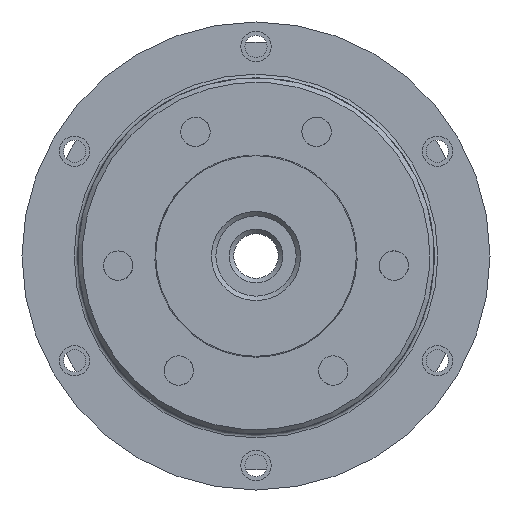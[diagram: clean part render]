
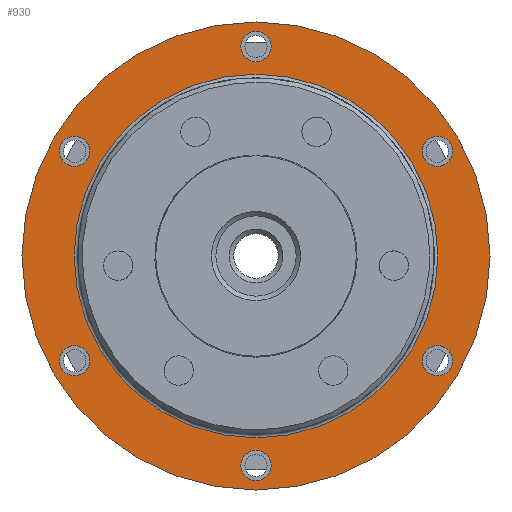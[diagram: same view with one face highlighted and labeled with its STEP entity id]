
A CAD part, left-side view. The second image highlights one B-rep face of the part: STEP entity #930.
In plain terms, the highlighted planar face has unit normal (-1, 0, 0).
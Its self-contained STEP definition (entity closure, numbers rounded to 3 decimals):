
#930 = ADVANCED_FACE( '', ( #2424, #2425, #2426, #2427, #2428, #2429, #2430, #2431 ), #2432, .F. );
#2424 = FACE_OUTER_BOUND( '', #4663, .T. );
#2425 = FACE_BOUND( '', #4664, .T. );
#2426 = FACE_BOUND( '', #4665, .T. );
#2427 = FACE_BOUND( '', #4666, .T. );
#2428 = FACE_BOUND( '', #4667, .T. );
#2429 = FACE_BOUND( '', #4668, .T. );
#2430 = FACE_BOUND( '', #4669, .T. );
#2431 = FACE_BOUND( '', #4670, .T. );
#2432 = PLANE( '', #4671 );
#4663 = EDGE_LOOP( '', ( #7455 ) );
#4664 = EDGE_LOOP( '', ( #7456 ) );
#4665 = EDGE_LOOP( '', ( #7457 ) );
#4666 = EDGE_LOOP( '', ( #7458 ) );
#4667 = EDGE_LOOP( '', ( #7459 ) );
#4668 = EDGE_LOOP( '', ( #7460 ) );
#4669 = EDGE_LOOP( '', ( #7461 ) );
#4670 = EDGE_LOOP( '', ( #7462 ) );
#4671 = AXIS2_PLACEMENT_3D( '', #7463, #7464, #7465 );
#7455 = ORIENTED_EDGE( '', *, *, #12038, .T. );
#7456 = ORIENTED_EDGE( '', *, *, #11708, .F. );
#7457 = ORIENTED_EDGE( '', *, *, #12039, .F. );
#7458 = ORIENTED_EDGE( '', *, *, #12040, .F. );
#7459 = ORIENTED_EDGE( '', *, *, #12041, .F. );
#7460 = ORIENTED_EDGE( '', *, *, #11550, .F. );
#7461 = ORIENTED_EDGE( '', *, *, #11766, .F. );
#7462 = ORIENTED_EDGE( '', *, *, #12042, .F. );
#7463 = CARTESIAN_POINT( '', ( 1.25, 0., 26.25 ) );
#7464 = DIRECTION( '', ( 1., 0., 0. ) );
#7465 = DIRECTION( '', ( 0., 1., 0. ) );
#11550 = EDGE_CURVE( '', #13550, #13550, #13551, .T. );
#11708 = EDGE_CURVE( '', #13824, #13824, #13825, .T. );
#11766 = EDGE_CURVE( '', #13920, #13920, #13921, .T. );
#12038 = EDGE_CURVE( '', #14374, #14374, #14375, .T. );
#12039 = EDGE_CURVE( '', #14376, #14376, #14377, .T. );
#12040 = EDGE_CURVE( '', #14378, #14378, #14379, .T. );
#12041 = EDGE_CURVE( '', #14380, #14380, #14381, .T. );
#12042 = EDGE_CURVE( '', #14382, #14382, #14383, .T. );
#13550 = VERTEX_POINT( '', #16561 );
#13551 = CIRCLE( '', #16562, 1.7 );
#13824 = VERTEX_POINT( '', #16978 );
#13825 = CIRCLE( '', #16979, 1.7 );
#13920 = VERTEX_POINT( '', #17114 );
#13921 = CIRCLE( '', #17115, 20.4 );
#14374 = VERTEX_POINT( '', #18042 );
#14375 = CIRCLE( '', #18043, 26.25 );
#14376 = VERTEX_POINT( '', #18044 );
#14377 = CIRCLE( '', #18045, 1.7 );
#14378 = VERTEX_POINT( '', #18046 );
#14379 = CIRCLE( '', #18047, 1.7 );
#14380 = VERTEX_POINT( '', #18048 );
#14381 = CIRCLE( '', #18049, 1.7 );
#14382 = VERTEX_POINT( '', #18050 );
#14383 = CIRCLE( '', #18051, 1.7 );
#16561 = CARTESIAN_POINT( '', ( 1.25, 20.352, 10.05 ) );
#16562 = AXIS2_PLACEMENT_3D( '', #21251, #21252, #21253 );
#16978 = CARTESIAN_POINT( '', ( 1.25, -20.352, 10.05 ) );
#16979 = AXIS2_PLACEMENT_3D( '', #21478, #21479, #21480 );
#17114 = CARTESIAN_POINT( '', ( 1.25, 0., 20.4 ) );
#17115 = AXIS2_PLACEMENT_3D( '', #21557, #21558, #21559 );
#18042 = CARTESIAN_POINT( '', ( 1.25, 0., -26.25 ) );
#18043 = AXIS2_PLACEMENT_3D( '', #21906, #21907, #21908 );
#18044 = CARTESIAN_POINT( '', ( 1.25, -20.352, -13.45 ) );
#18045 = AXIS2_PLACEMENT_3D( '', #21909, #21910, #21911 );
#18046 = CARTESIAN_POINT( '', ( 1.25, 0., -25.2 ) );
#18047 = AXIS2_PLACEMENT_3D( '', #21912, #21913, #21914 );
#18048 = CARTESIAN_POINT( '', ( 1.25, 20.352, -13.45 ) );
#18049 = AXIS2_PLACEMENT_3D( '', #21915, #21916, #21917 );
#18050 = CARTESIAN_POINT( '', ( 1.25, 0., 21.8 ) );
#18051 = AXIS2_PLACEMENT_3D( '', #21918, #21919, #21920 );
#21251 = CARTESIAN_POINT( '', ( 1.25, 20.352, 11.75 ) );
#21252 = DIRECTION( '', ( -1., 0., 0. ) );
#21253 = DIRECTION( '', ( 0., 0., -1. ) );
#21478 = CARTESIAN_POINT( '', ( 1.25, -20.352, 11.75 ) );
#21479 = DIRECTION( '', ( -1., 0., 0. ) );
#21480 = DIRECTION( '', ( 0., 0., -1. ) );
#21557 = CARTESIAN_POINT( '', ( 1.25, 0., 0. ) );
#21558 = DIRECTION( '', ( -1., 0., 0. ) );
#21559 = DIRECTION( '', ( 0., 0., 1. ) );
#21906 = CARTESIAN_POINT( '', ( 1.25, 0., 0. ) );
#21907 = DIRECTION( '', ( -1., 0., 0. ) );
#21908 = DIRECTION( '', ( 0., 0., -1. ) );
#21909 = CARTESIAN_POINT( '', ( 1.25, -20.352, -11.75 ) );
#21910 = DIRECTION( '', ( -1., 0., 0. ) );
#21911 = DIRECTION( '', ( 0., 0., -1. ) );
#21912 = CARTESIAN_POINT( '', ( 1.25, 0., -23.5 ) );
#21913 = DIRECTION( '', ( -1., 0., 0. ) );
#21914 = DIRECTION( '', ( 0., 0., -1. ) );
#21915 = CARTESIAN_POINT( '', ( 1.25, 20.352, -11.75 ) );
#21916 = DIRECTION( '', ( -1., 0., 0. ) );
#21917 = DIRECTION( '', ( 0., 0., -1. ) );
#21918 = CARTESIAN_POINT( '', ( 1.25, 0., 23.5 ) );
#21919 = DIRECTION( '', ( -1., 0., 0. ) );
#21920 = DIRECTION( '', ( 0., 0., -1. ) );
